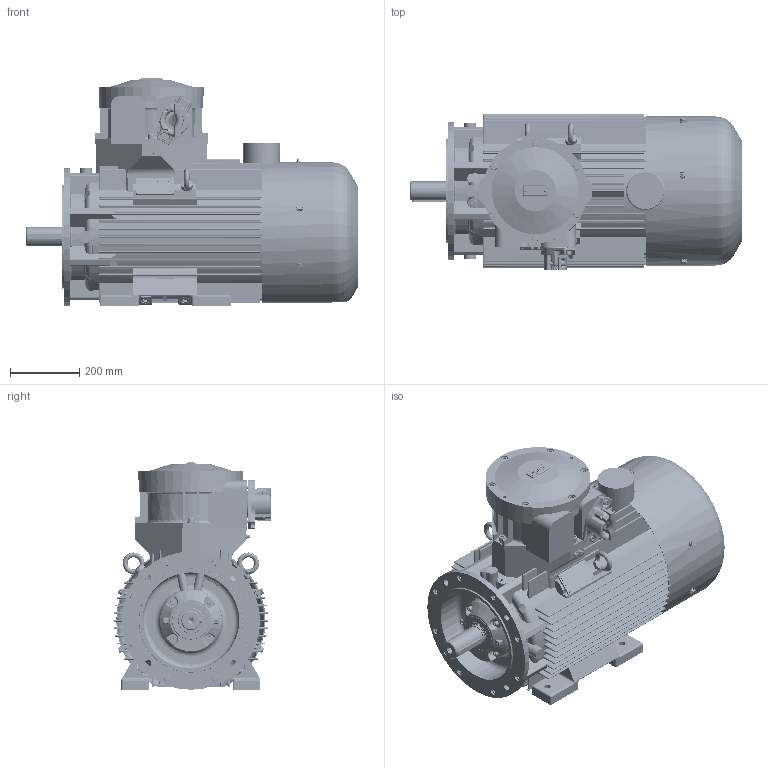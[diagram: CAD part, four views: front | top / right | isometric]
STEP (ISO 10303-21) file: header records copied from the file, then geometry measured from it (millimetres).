
FILE_DESCRIPTION(/* description */ ('Unknown'),/* implementation_level */ '2;1');
FILE_NAME(/* name */ 'cSTLe200L(2-8)-(IE2-3) - wykonwnie OUTSIDE !',/* time_stamp */ '2021-12-22T11:39:18+01:00',/* author */ ('Unknown'),/* organization */ ('Unknown'),/* preprocessor_version */ 'ST-DEVELOPER v16.7',/* originating_system */ 'DEX',/* authorisation */ $);
FILE_SCHEMA (('AUTOMOTIVE_DESIGN {1 0 10303 214 3 1 1}'));
Products named in the file (1): cSTLe200L(2-8)-(IE2-3) - wykonwnie OUTSIDE !
Bounding box: 960.63 x 454.5 x 658.45 mm (x, y, z)
Volume: 28690248.6 mm3; surface area: 6542160.8 mm2
Topology: 162 solids, 163 shells, 7775 faces, 20303 edges, 13100 vertices
Faces by surface type: plane 4705, cylinder 1663, cone 511, torus 429, bspline 354, sphere 113
Full cylindrical faces by diameter (mm): 1.2 x6, 1.6 x2, 2.5 x6, 3 x6, 3.1 x4, 3.2 x2, 3.4 x6, 4.773 x2, 4.917 x4, 5 x3, 5.35 x2, 6 x6, 6.2 x3, 6.4 x2, 6.466 x4, 6.5 x2, 6.647 x4, 8 x14, 8.16 x24, 8.376 x18, 8.5 x4, 8.8 x1, 8.917 x3, 9 x4, 9.853 x14, 10 x53, 10.106 x13, 10.5 x4, 11 x24, 12 x32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
Entity records: 269823 total; most frequent: CARTESIAN_POINT 67001, ORIENTED_EDGE 37832, DIRECTION 36557, EDGE_CURVE 18916, VERTEX_POINT 12765, LINE 12381, VECTOR 12381, AXIS2_PLACEMENT_3D 12088
